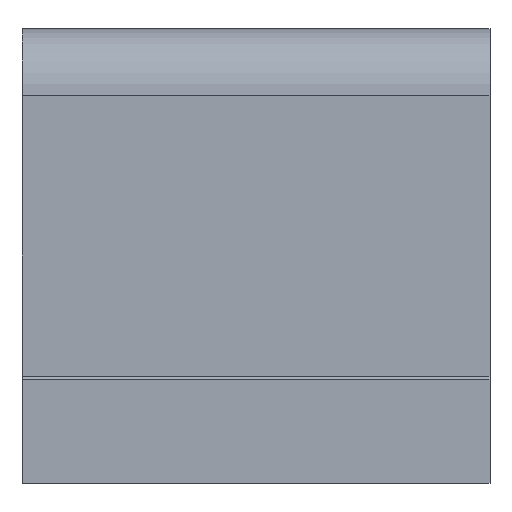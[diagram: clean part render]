
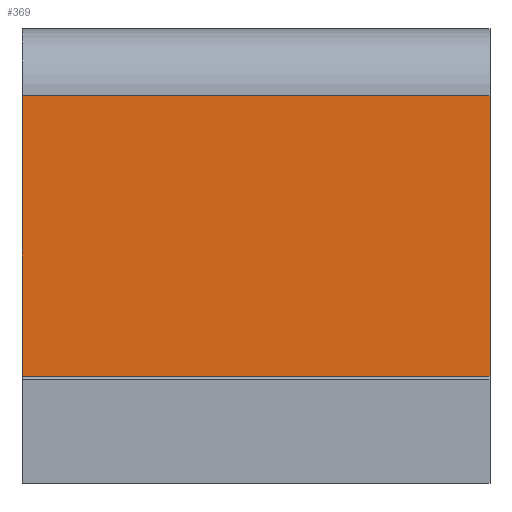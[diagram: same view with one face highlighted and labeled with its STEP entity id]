
A CAD part, front view. The second image highlights one B-rep face of the part: STEP entity #369.
In plain terms, the highlighted planar face has unit normal (0, -1, 0).
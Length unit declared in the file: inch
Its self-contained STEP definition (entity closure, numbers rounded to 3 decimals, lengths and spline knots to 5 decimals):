
#55=CARTESIAN_POINT('',(0.,-0.095,0.2));
#56=VERTEX_POINT('',#55);
#73=CARTESIAN_POINT('',(0.875,-0.095,0.2));
#74=VERTEX_POINT('',#73);
#81=CARTESIAN_POINT('',(0.875,-0.095,0.2));
#82=DIRECTION('',(-1.0,0.0,0.0));
#83=VECTOR('',#82,0.875);
#84=LINE('',#81,#83);
#85=EDGE_CURVE('',#74,#56,#84,.T.);
#153=CARTESIAN_POINT('',(0.,-0.095,0.725));
#154=VERTEX_POINT('',#153);
#155=CARTESIAN_POINT('',(0.,-0.095,0.2));
#156=DIRECTION('',(0.0,0.0,1.0));
#157=VECTOR('',#156,0.525);
#158=LINE('',#155,#157);
#159=EDGE_CURVE('',#56,#154,#158,.T.);
#250=CARTESIAN_POINT('',(0.875,-0.095,0.725));
#251=VERTEX_POINT('',#250);
#268=CARTESIAN_POINT('',(0.,-0.095,0.725));
#269=DIRECTION('',(1.0,0.0,0.0));
#270=VECTOR('',#269,0.875);
#271=LINE('',#268,#270);
#272=EDGE_CURVE('',#154,#251,#271,.T.);
#340=CARTESIAN_POINT('',(0.875,-0.095,0.725));
#341=DIRECTION('',(0.0,0.0,-1.0));
#342=VECTOR('',#341,0.525);
#343=LINE('',#340,#342);
#344=EDGE_CURVE('',#251,#74,#343,.T.);
#358=CARTESIAN_POINT('',(0.,-0.095,0.85));
#359=DIRECTION('',(0.0,1.0,0.0));
#360=DIRECTION('',(0.0,0.0,1.0));
#361=AXIS2_PLACEMENT_3D('',#358,#359,#360);
#362=PLANE('',#361);
#363=ORIENTED_EDGE('',*,*,#85,.F.);
#364=ORIENTED_EDGE('',*,*,#344,.F.);
#365=ORIENTED_EDGE('',*,*,#272,.F.);
#366=ORIENTED_EDGE('',*,*,#159,.F.);
#367=EDGE_LOOP('',(#363,#364,#365,#366));
#368=FACE_OUTER_BOUND('',#367,.T.);
#369=ADVANCED_FACE('',(#368),#362,.F.);
